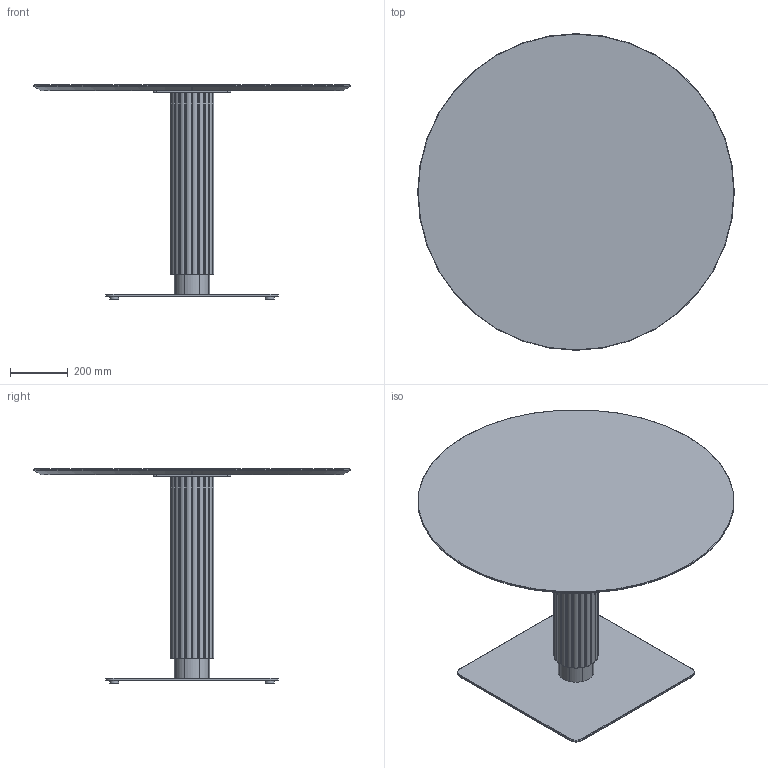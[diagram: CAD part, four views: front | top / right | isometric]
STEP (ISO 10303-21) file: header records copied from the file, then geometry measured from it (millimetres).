
FILE_DESCRIPTION( ('This file contains a STEP AP42 implementation' ,'as created by ZW3D STEP Interface translator.') ,'2;1' );
FILE_NAME( 'Godron - B_Carré - F1 - M5 - 1100 x 1100 x 750.stp' ,'24 912. 95255', (''), ('ZWCAD Software Co.'), 'Version 1.0', 'ZW3D to STEP translator', '' );
FILE_SCHEMA(('AUTOMOTIVE_DESIGN { 1 0 10303 214 1 1 1 1 }'));
Length unit declared in the file: millimetre
Products named in the file (15): 0; PIED BISTROT PARAMETRIQUE_; CROIX ACIER 370 V.02_; CRX-X370-02_; SOCLE ACIER L 600x600 V.02_; SCL-R600-02_; PLA-R30A-01_; PLA-R30A-01; COLONNE ACIER Ø48.5 V.02_; TUB-D048-02_; PLA-R48A-01_; Colonne GODRON H700_; WUERTH 0276063020 Euro-screw 6.3x2 Verzinkt_; PLATEAU BISTROT PARAMETRIQUE_; insert_m6_13_
Assembly tree (23 placements, depth 3):
  0
  PIED BISTROT PARAMETRIQUE_
    CROIX ACIER 370 V.02_
      CRX-X370-02_
    SOCLE ACIER L 600x600 V.02_
      SCL-R600-02_
      PLA-R30A-01_
      PLA-R30A-01  x3
    COLONNE ACIER Ø48.5 V.02_
      TUB-D048-02_
      PLA-R48A-01_  x2
    Colonne GODRON H700_
    WUERTH 0276063020 Euro-screw 6.3x2 Verzinkt_
    PLATEAU BISTROT PARAMETRIQUE_
      insert_m6_13_  x8
Bounding box: 1100 x 1100 x 744 mm (x, y, z)
Volume: 32278278 mm3; surface area: 4080674.1 mm2
Topology: 27 solids, 27 shells, 669 faces, 1662 edges, 1062 vertices
Faces by surface type: plane 302, cylinder 192, bspline 125, cone 49, torus 1
Full cylindrical faces by diameter (mm): 4.88 x1, 6 x8, 6.3 x1, 8 x45, 12 x2, 14 x2, 30 x4, 44.5 x3, 48.5 x1
Entity records: 16822 total; most frequent: CARTESIAN_POINT 4161, ORIENTED_EDGE 2338, DIRECTION 2336, EDGE_CURVE 1169, AXIS2_PLACEMENT_3D 825, VERTEX_POINT 756, VECTOR 686, LINE 686
